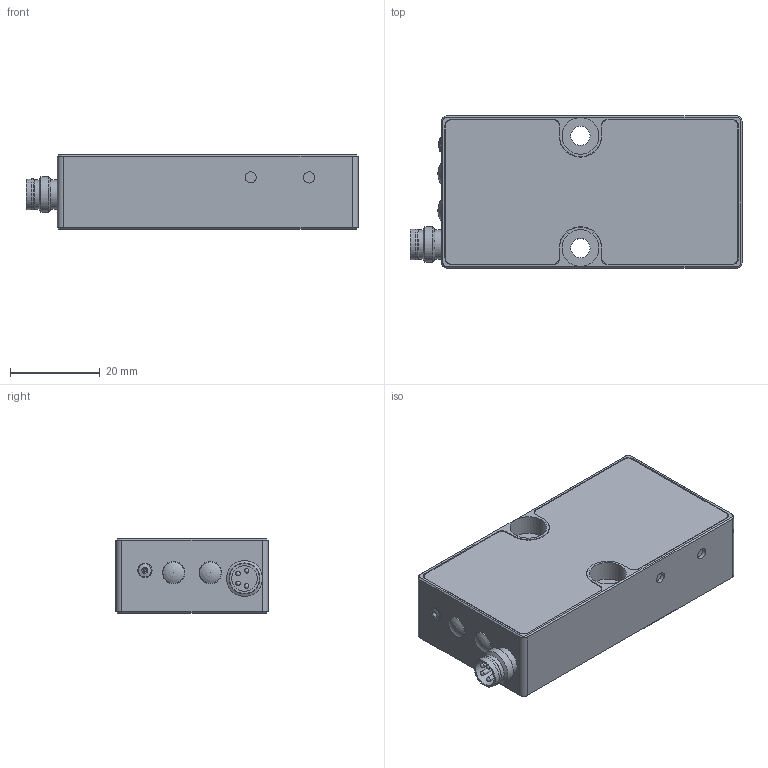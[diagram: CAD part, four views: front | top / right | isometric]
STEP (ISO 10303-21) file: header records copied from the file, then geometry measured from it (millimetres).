
FILE_DESCRIPTION( ( 'Unknown' ), '1' );
FILE_NAME( '//baumerholding.org/frauenfeld/bereich/BECH/Services/me_CAD/Solid Edge/Models/Dokumentationen/Opto/ParCon/Vereinfachte Modelle/Neutralformate/ZADM 034x220.xx21.stp', 'Unknown', ( 'Unknown' ), ( 'Unknown' ), 'XStep 1.0', 'Unknown', ' ' );
FILE_SCHEMA( ( 'CONFIG_CONTROL_DESIGN' ) );
Length unit declared in the file: millimetre
Products named in the file (1): 1
Bounding box: 74 x 34 x 16.5 mm (x, y, z)
Volume: 35966.1 mm3; surface area: 10342.4 mm2
Topology: 1 solids, 15 shells, 233 faces, 543 edges, 349 vertices
Faces by surface type: plane 123, cylinder 86, cone 15, sphere 8, torus 1
Full cylindrical faces by diameter (mm): 1 x4, 1.567 x2, 2 x1, 2.459 x1, 2.5 x1, 3.15 x1, 3.2 x1, 4.3 x2, 4.8 x2, 5 x2, 5.62 x1, 5.65 x1, 5.77 x1, 6.5 x2, 6.9 x1, 8 x1, 8.2 x4
Entity records: 6260 total; most frequent: DIRECTION 1134, CARTESIAN_POINT 1042, ORIENTED_EDGE 952, EDGE_CURVE 476, AXIS2_PLACEMENT_3D 424, VERTEX_POINT 332, EDGE_LOOP 296, LINE 286
